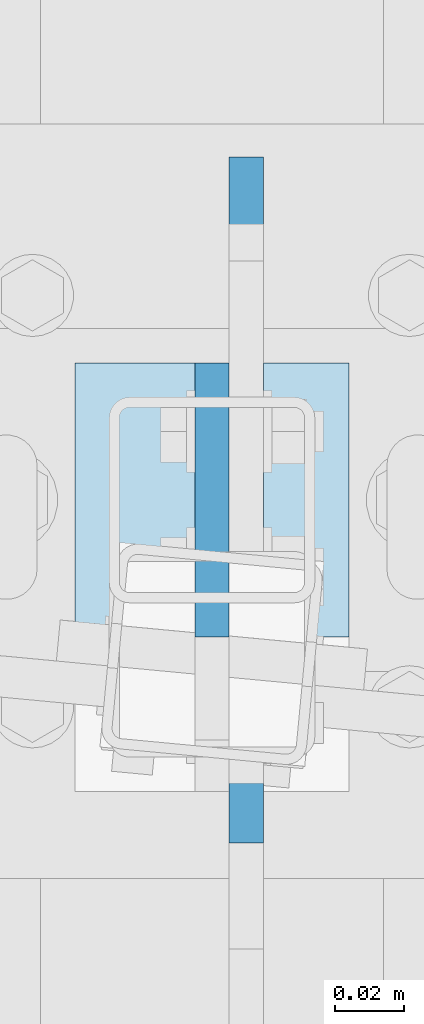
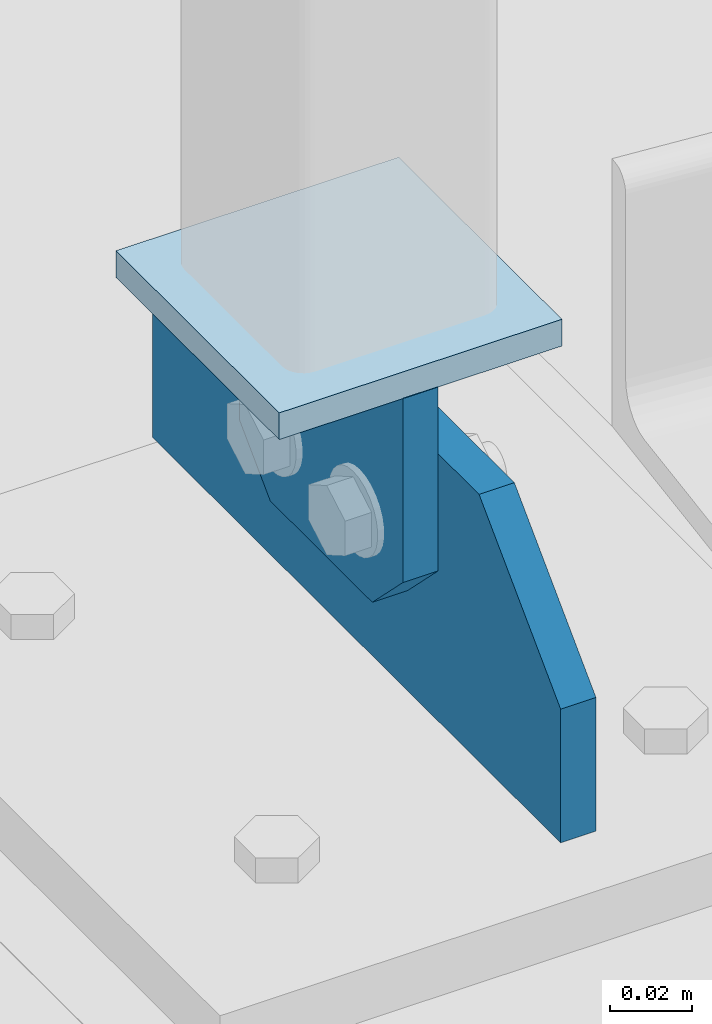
# One storey, part 151 of 271: 3 plates, 2 elements without a shape of their own.
"""IFC2X3 building model written with IfcOpenShell, lengths in millimetres."""

from ifc_helpers import new_model, si_unit, frame, origin_with_axes, place, context, subcontext, project, spatial, polyline, outline, extrude, material, type_object, element, aggregate, save


model = new_model("IFC2X3")

# Units and contexts
model_context = context("Model", 3, precision=1e-05, world=origin_with_axes())
body_context = subcontext(model_context, "Body", "Model", "MODEL_VIEW")
ifc_project = project(units=[si_unit("LENGTHUNIT", "METRE", prefix="MILLI"), si_unit("AREAUNIT", "SQUARE_METRE"), si_unit("VOLUMEUNIT", "CUBIC_METRE"), si_unit("MASSUNIT", "GRAM", prefix="KILO"), si_unit("TIMEUNIT", "SECOND"), si_unit("PLANEANGLEUNIT", "RADIAN"), si_unit("SOLIDANGLEUNIT", "STERADIAN"), si_unit("THERMODYNAMICTEMPERATUREUNIT", "DEGREE_CELSIUS"), si_unit("LUMINOUSINTENSITYUNIT", "LUMEN")], contexts=[model_context])

# Site, building, storey
site_placement = place(None, origin_with_axes())
site = spatial("IfcSite", under=ifc_project, at=site_placement, Name="Undefined", CompositionType="ELEMENT")
building_placement = place(site_placement, origin_with_axes())
building = spatial("IfcBuilding", under=site, at=building_placement, Name="Undefined", CompositionType="ELEMENT")
storey_placement = place(building_placement, origin_with_axes())
storey = spatial("IfcBuildingStorey", under=building, at=storey_placement, Name="Undefined", CompositionType="ELEMENT", Elevation=0.0)

# Assembly, plates
assembly_1_placement = place(storey_placement, origin_with_axes())
assembly_1 = element("IfcElementAssembly", 1, at=assembly_1_placement, inside=storey, AssemblyPlace="NOTDEFINED", PredefinedType="RIGID_FRAME")
ifc_material = material(Name="STEEL/S355JR")
plate_type_1 = type_object("IfcPlateType", Name="BL10*70", PredefinedType="NOTDEFINED")
plate_1_placement = place(assembly_1_placement, frame((3168.37568709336, 4090.32498425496, 54.6500000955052), z_axis=(-1.0, 0.0, 1.38777878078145e-17), x_axis=(0.0, -0.707106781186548, -0.707106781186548)))
plate_1 = element("IfcPlate", 2, at=plate_1_placement, type_object=plate_type_1, material=ifc_material, Name="BLACHA", ObjectType="BL10*70", context=body_context, shape_type="SweptSolid", body=[
    extrude(outline(polyline([(0.0, 0.0), (21.2132034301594, 1.09139364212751e-11), (56.5685424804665, 35.3553390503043), (56.568542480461, 56.5685424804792), (17.6776695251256, 95.4594192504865), (-38.890872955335, 38.8908729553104), (0.0, 0.0)])), frame((0.0, 0.0, -5.0), z_axis=(0.0, 0.0, 1.0), x_axis=(1.0, 0.0, 0.0)), (0.0, 0.0, 1.0), 10.0),
])
plate_type_2 = type_object("IfcPlateType", Name="BL8*80", PredefinedType="NOTDEFINED")
plate_2_placement = place(assembly_1_placement, frame((3208.37568709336, 4090.32498425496, 113.650000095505), z_axis=(0.0, 0.0, -1.0), x_axis=(0.0, -1.0, 0.0)))
plate_2 = element("IfcPlate", 3, at=plate_2_placement, type_object=plate_type_2, material=ifc_material, Name="BLACHA", ObjectType="BL8*80", context=body_context, shape_type="SweptSolid", body=[
    extrude(outline(polyline([(0.0, 0.0), (80.0, 0.0), (80.0, 80.0), (0.0, 80.0), (0.0, 0.0)])), frame((0.0, 0.0, -4.0), z_axis=(0.0, 0.0, 1.0), x_axis=(1.0, 0.0, 0.0)), (0.0, 0.0, 1.0), 8.0),
])
aggregate(assembly_1, [plate_2, plate_1])

# Assembly, plate
assembly_2_placement = place(storey_placement, origin_with_axes())
assembly_2 = element("IfcElementAssembly", 4, at=assembly_2_placement, inside=storey, AssemblyPlace="NOTDEFINED", PredefinedType="RIGID_FRAME")
plate_type_3 = type_object("IfcPlateType", Name="BL10*80", PredefinedType="NOTDEFINED")
plate_3_placement = place(assembly_2_placement, frame((3178.37568709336, 4150.32498425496, 9.65000009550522), z_axis=(-1.0, 0.0, 1.38777878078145e-17), x_axis=(0.0, -1.0, 0.0)))
plate_3 = element("IfcPlate", 5, at=plate_3_placement, type_object=plate_type_3, material=ifc_material, Name="BLACHA", ObjectType="BL10*80", context=body_context, shape_type="SweptSolid", body=[
    extrude(outline(polyline([(0.0, 0.0), (200.0, 0.0), (200.0, 40.0), (160.0, 80.0), (40.0, 80.0), (0.0, 40.0), (0.0, 0.0)])), frame((0.0, 0.0, -5.0), z_axis=(0.0, 0.0, 1.0), x_axis=(1.0, 0.0, 0.0)), (0.0, 0.0, 1.0), 10.0),
])
aggregate(assembly_2, [plate_3])

save(model, "model.ifc")
